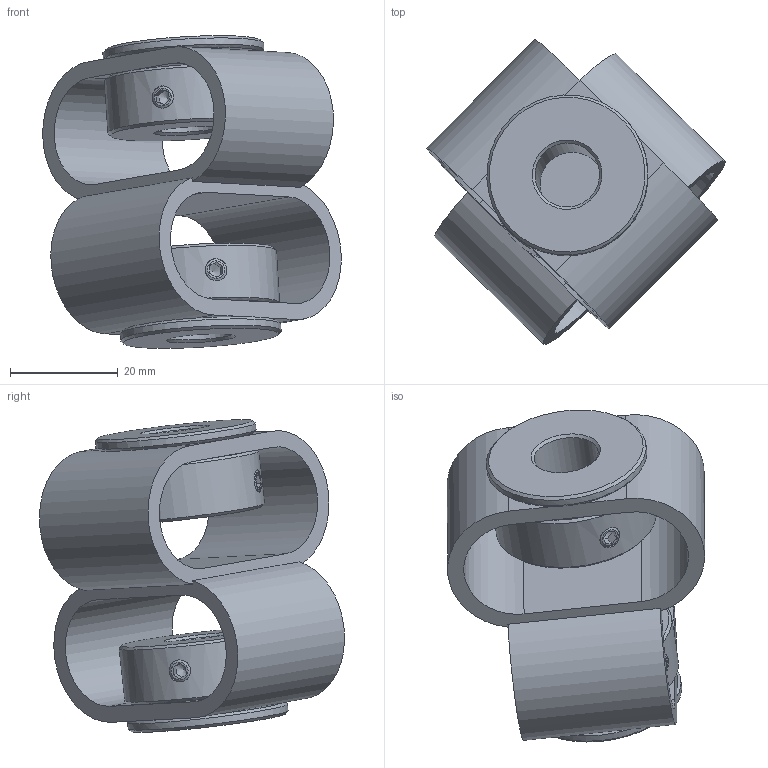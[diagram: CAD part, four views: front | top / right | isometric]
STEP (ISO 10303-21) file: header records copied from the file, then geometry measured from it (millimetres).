
FILE_DESCRIPTION(/* description */ (''),/* implementation_level */ '2;1');
FILE_NAME(/* name */ 'E:\ABP_bauteile\Doppelschlaufenkupplung\DKPS_5658\Doppelschlaufenkupplung_DKPS_5658_12_12.stp',/* time_stamp */ '2015-03-13T11:29:28+01:00',/* author */ ('Rob'),/* organization */ (''),/* preprocessor_version */ 'ST-DEVELOPER v15.6',/* originating_system */ 'Autodesk Inventor 2015',/* authorisation */ '');
FILE_SCHEMA (('CONFIG_CONTROL_DESIGN'));
Length unit declared in the file: millimetre
Products named in the file (1): Bauteil38
Bounding box: 55.53 x 56.74 x 58.16 mm (x, y, z)
Volume: 32896.7 mm3; surface area: 18153.7 mm2
Topology: 1 solids, 1 shells, 142 faces, 360 edges, 218 vertices
Faces by surface type: plane 84, cone 30, cylinder 28
Full cylindrical faces by diameter (mm): 4.134 x8, 12 x2, 21.5 x2, 23 x4, 30 x4
Entity records: 4088 total; most frequent: CARTESIAN_POINT 1027, DIRECTION 646, ORIENTED_EDGE 556, EDGE_CURVE 278, AXIS2_PLACEMENT_3D 257, EDGE_LOOP 210, VERTEX_POINT 182, FACE_OUTER_BOUND 142
